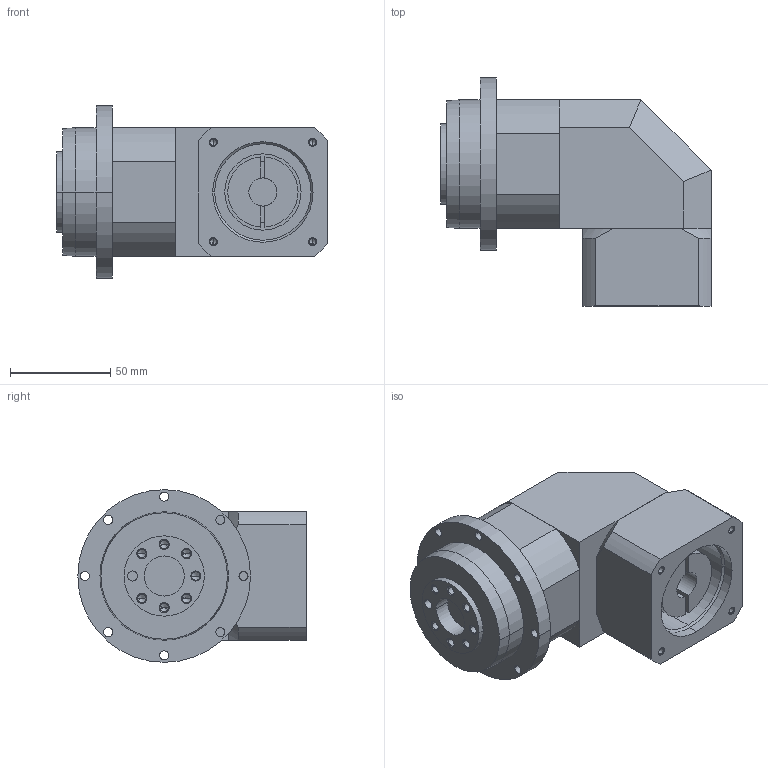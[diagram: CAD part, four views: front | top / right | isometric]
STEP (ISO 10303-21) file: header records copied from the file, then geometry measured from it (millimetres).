
FILE_DESCRIPTION (( 'STEP AP203' ), '1' );
FILE_NAME ('ZPLH60-L1 14-50-70-M4.STEP', '2020-09-12T02:31:01', ( '微软用户' ), ( '微软中国' ), 'SwSTEP 2.0', 'SolidWorks 2014', '' );
FILE_SCHEMA (( 'CONFIG_CONTROL_DESIGN' ));
Length unit declared in the file: millimetre
Products named in the file (4): ZPLH60-L1 14-50-70-M4; zx60dz; zx60zjx; 錨璃1
Assembly tree (3 placements, depth 2):
  ZPLH60-L1 14-50-70-M4
    zx60dz
    zx60zjx
    錨璃1
Bounding box: 134.6 x 113.7 x 86 mm (x, y, z)
Volume: 582338.2 mm3; surface area: 75576.1 mm2
Topology: 3 solids, 3 shells, 167 faces, 403 edges, 241 vertices
Faces by surface type: cylinder 72, cone 52, plane 43
Entity records: 5193 total; most frequent: DIRECTION 899, CARTESIAN_POINT 835, ORIENTED_EDGE 762, EDGE_CURVE 381, AXIS2_PLACEMENT_3D 353, VERTEX_POINT 241, EDGE_LOOP 204, VECTOR 193
